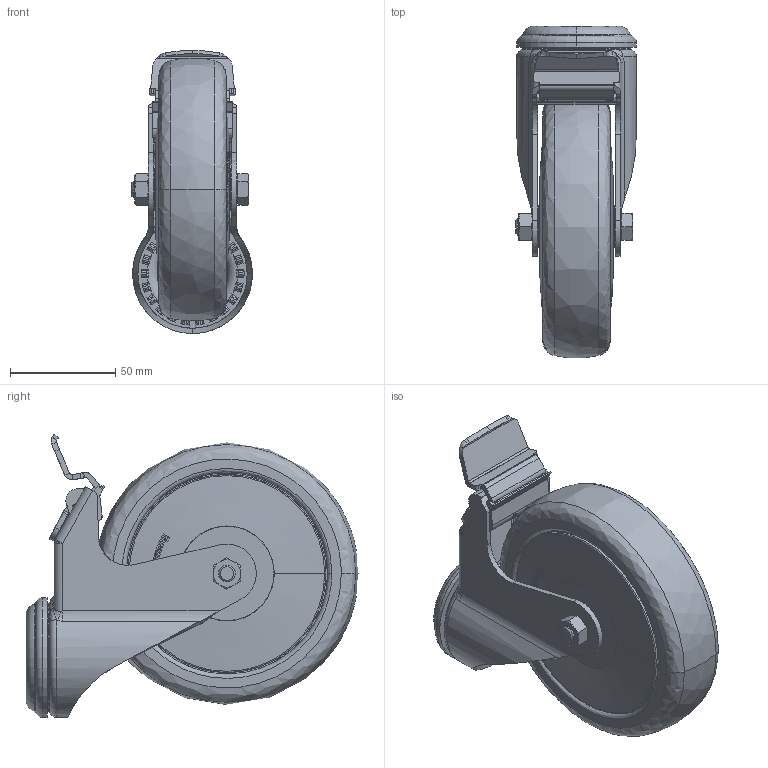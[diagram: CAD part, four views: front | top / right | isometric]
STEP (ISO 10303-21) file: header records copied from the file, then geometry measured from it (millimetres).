
FILE_DESCRIPTION (( 'STEP AP203' ), '1' );
FILE_NAME ('10313_LEN125MFES.STEP', '2018-03-23T08:57:03', ( '' ), ( '' ), 'SwSTEP 2.0', 'SolidWorks 2017', '' );
FILE_SCHEMA (( 'CONFIG_CONTROL_DESIGN' ));
Products named in the file (1): 10313_LEN125MFES
Bounding box: 57.5 x 157.86 x 134.57 mm (x, y, z)
Volume: 470981.6 mm3; surface area: 80645.2 mm2
Topology: 3 solids, 4 shells, 1797 faces, 4754 edges, 3059 vertices
Faces by surface type: plane 808, bspline 427, cylinder 340, cone 109, torus 106, sphere 7
Entity records: 83466 total; most frequent: CARTESIAN_POINT 44020, ORIENTED_EDGE 9500, DIRECTION 5978, EDGE_CURVE 4750, VERTEX_POINT 3059, VECTOR 2220, LINE 2220, B_SPLINE_CURVE_WITH_KNOTS 1941
